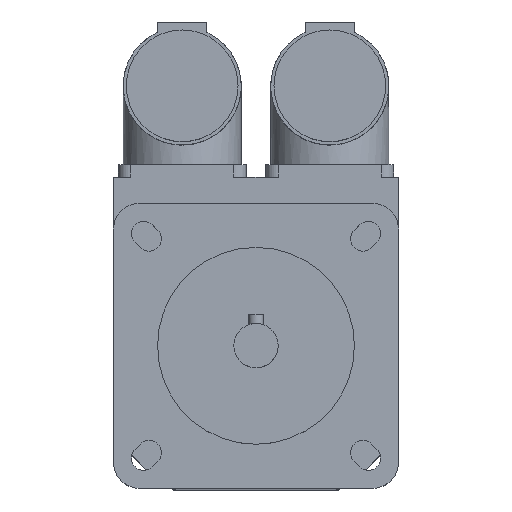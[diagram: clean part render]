
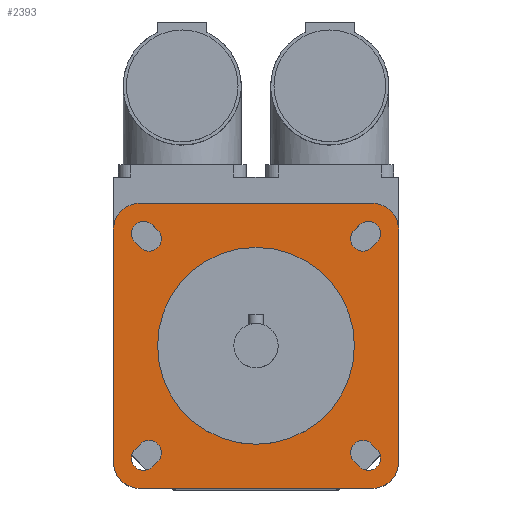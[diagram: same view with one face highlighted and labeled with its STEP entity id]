
A CAD part, top view. The second image highlights one B-rep face of the part: STEP entity #2393.
In plain terms, the highlighted planar face has unit normal (0, 0, 1).
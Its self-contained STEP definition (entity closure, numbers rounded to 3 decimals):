
#32=FACE_BOUND('',#432,.T.);
#33=FACE_BOUND('',#433,.T.);
#34=FACE_BOUND('',#434,.T.);
#35=FACE_BOUND('',#435,.T.);
#36=FACE_BOUND('',#436,.T.);
#51=CIRCLE('',#2486,20.);
#88=CIRCLE('',#2550,2.5);
#92=CIRCLE('',#2557,2.5);
#93=CIRCLE('',#2560,2.5);
#94=CIRCLE('',#2563,2.5);
#104=CIRCLE('',#2578,2.5);
#105=CIRCLE('',#2581,2.5);
#106=CIRCLE('',#2584,2.5);
#107=CIRCLE('',#2587,2.5);
#108=CIRCLE('',#2589,5.5);
#109=CIRCLE('',#2591,5.5);
#110=CIRCLE('',#2593,5.5);
#111=CIRCLE('',#2595,5.5);
#290=FACE_OUTER_BOUND('',#431,.T.);
#431=EDGE_LOOP('',(#1839,#1840,#1841,#1842,#1843,#1844,#1845,#1846));
#432=EDGE_LOOP('',(#1847));
#433=EDGE_LOOP('',(#1848,#1849,#1850,#1851));
#434=EDGE_LOOP('',(#1852,#1853,#1854,#1855));
#435=EDGE_LOOP('',(#1856,#1857,#1858,#1859));
#436=EDGE_LOOP('',(#1860,#1861,#1862,#1863));
#578=LINE('',#3719,#799);
#586=LINE('',#3743,#807);
#590=LINE('',#3753,#811);
#594=LINE('',#3763,#815);
#610=LINE('',#3814,#831);
#612=LINE('',#3820,#833);
#614=LINE('',#3826,#835);
#616=LINE('',#3832,#837);
#625=LINE('',#3860,#846);
#626=LINE('',#3861,#847);
#627=LINE('',#3862,#848);
#628=LINE('',#3863,#849);
#799=VECTOR('',#2944,1.5);
#807=VECTOR('',#2966,1.5);
#811=VECTOR('',#2976,1.5);
#815=VECTOR('',#2986,1.5);
#831=VECTOR('',#3032,1.5);
#833=VECTOR('',#3040,1.5);
#835=VECTOR('',#3048,1.5);
#837=VECTOR('',#3056,1.5);
#846=VECTOR('',#3087,47.);
#847=VECTOR('',#3088,47.);
#848=VECTOR('',#3089,47.);
#849=VECTOR('',#3090,47.);
#974=VERTEX_POINT('',#3540);
#1039=VERTEX_POINT('',#3716);
#1040=VERTEX_POINT('',#3718);
#1041=VERTEX_POINT('',#3722);
#1048=VERTEX_POINT('',#3740);
#1049=VERTEX_POINT('',#3742);
#1050=VERTEX_POINT('',#3746);
#1051=VERTEX_POINT('',#3750);
#1052=VERTEX_POINT('',#3752);
#1053=VERTEX_POINT('',#3756);
#1054=VERTEX_POINT('',#3760);
#1055=VERTEX_POINT('',#3762);
#1056=VERTEX_POINT('',#3766);
#1075=VERTEX_POINT('',#3812);
#1076=VERTEX_POINT('',#3818);
#1077=VERTEX_POINT('',#3824);
#1078=VERTEX_POINT('',#3830);
#1079=VERTEX_POINT('',#3836);
#1080=VERTEX_POINT('',#3838);
#1081=VERTEX_POINT('',#3842);
#1082=VERTEX_POINT('',#3844);
#1083=VERTEX_POINT('',#3848);
#1084=VERTEX_POINT('',#3850);
#1085=VERTEX_POINT('',#3854);
#1086=VERTEX_POINT('',#3856);
#1215=EDGE_CURVE('',#974,#974,#51,.T.);
#1301=EDGE_CURVE('',#1040,#1039,#578,.T.);
#1304=EDGE_CURVE('',#1039,#1041,#88,.T.);
#1313=EDGE_CURVE('',#1049,#1048,#586,.T.);
#1316=EDGE_CURVE('',#1048,#1050,#92,.T.);
#1318=EDGE_CURVE('',#1052,#1051,#590,.T.);
#1321=EDGE_CURVE('',#1051,#1053,#93,.T.);
#1323=EDGE_CURVE('',#1055,#1054,#594,.T.);
#1326=EDGE_CURVE('',#1054,#1056,#94,.T.);
#1349=EDGE_CURVE('',#1053,#1075,#610,.T.);
#1350=EDGE_CURVE('',#1075,#1052,#104,.T.);
#1352=EDGE_CURVE('',#1050,#1076,#612,.T.);
#1353=EDGE_CURVE('',#1076,#1049,#105,.T.);
#1355=EDGE_CURVE('',#1056,#1077,#614,.T.);
#1356=EDGE_CURVE('',#1077,#1055,#106,.T.);
#1358=EDGE_CURVE('',#1041,#1078,#616,.T.);
#1359=EDGE_CURVE('',#1078,#1040,#107,.T.);
#1361=EDGE_CURVE('',#1080,#1079,#108,.T.);
#1364=EDGE_CURVE('',#1082,#1081,#109,.T.);
#1367=EDGE_CURVE('',#1084,#1083,#110,.T.);
#1370=EDGE_CURVE('',#1086,#1085,#111,.T.);
#1372=EDGE_CURVE('',#1079,#1086,#625,.T.);
#1373=EDGE_CURVE('',#1085,#1084,#626,.T.);
#1374=EDGE_CURVE('',#1083,#1082,#627,.T.);
#1375=EDGE_CURVE('',#1081,#1080,#628,.T.);
#1839=ORIENTED_EDGE('',*,*,#1372,.T.);
#1840=ORIENTED_EDGE('',*,*,#1370,.T.);
#1841=ORIENTED_EDGE('',*,*,#1373,.T.);
#1842=ORIENTED_EDGE('',*,*,#1367,.T.);
#1843=ORIENTED_EDGE('',*,*,#1374,.T.);
#1844=ORIENTED_EDGE('',*,*,#1364,.T.);
#1845=ORIENTED_EDGE('',*,*,#1375,.T.);
#1846=ORIENTED_EDGE('',*,*,#1361,.T.);
#1847=ORIENTED_EDGE('',*,*,#1215,.T.);
#1848=ORIENTED_EDGE('',*,*,#1349,.T.);
#1849=ORIENTED_EDGE('',*,*,#1350,.T.);
#1850=ORIENTED_EDGE('',*,*,#1318,.T.);
#1851=ORIENTED_EDGE('',*,*,#1321,.T.);
#1852=ORIENTED_EDGE('',*,*,#1352,.T.);
#1853=ORIENTED_EDGE('',*,*,#1353,.T.);
#1854=ORIENTED_EDGE('',*,*,#1313,.T.);
#1855=ORIENTED_EDGE('',*,*,#1316,.T.);
#1856=ORIENTED_EDGE('',*,*,#1355,.T.);
#1857=ORIENTED_EDGE('',*,*,#1356,.T.);
#1858=ORIENTED_EDGE('',*,*,#1323,.T.);
#1859=ORIENTED_EDGE('',*,*,#1326,.T.);
#1860=ORIENTED_EDGE('',*,*,#1358,.T.);
#1861=ORIENTED_EDGE('',*,*,#1359,.T.);
#1862=ORIENTED_EDGE('',*,*,#1301,.T.);
#1863=ORIENTED_EDGE('',*,*,#1304,.T.);
#2297=PLANE('',#2596);
#2393=ADVANCED_FACE('',(#290,#32,#33,#34,#35,#36),#2297,.T.);
#2486=AXIS2_PLACEMENT_3D('',#3541,#2769,#2770);
#2550=AXIS2_PLACEMENT_3D('',#3724,#2949,#2950);
#2557=AXIS2_PLACEMENT_3D('',#3748,#2971,#2972);
#2560=AXIS2_PLACEMENT_3D('',#3758,#2981,#2982);
#2563=AXIS2_PLACEMENT_3D('',#3768,#2991,#2992);
#2578=AXIS2_PLACEMENT_3D('',#3816,#3035,#3036);
#2581=AXIS2_PLACEMENT_3D('',#3822,#3043,#3044);
#2584=AXIS2_PLACEMENT_3D('',#3828,#3051,#3052);
#2587=AXIS2_PLACEMENT_3D('',#3834,#3059,#3060);
#2589=AXIS2_PLACEMENT_3D('',#3839,#3064,#3065);
#2591=AXIS2_PLACEMENT_3D('',#3845,#3070,#3071);
#2593=AXIS2_PLACEMENT_3D('',#3851,#3076,#3077);
#2595=AXIS2_PLACEMENT_3D('',#3857,#3082,#3083);
#2596=AXIS2_PLACEMENT_3D('',#3859,#3085,#3086);
#2769=DIRECTION('center_axis',(0.,0.,-1.));
#2770=DIRECTION('ref_axis',(-1.,0.,0.));
#2944=DIRECTION('',(-0.707,-0.707,0.));
#2949=DIRECTION('center_axis',(0.,0.,-1.));
#2950=DIRECTION('ref_axis',(0.707,-0.707,0.));
#2966=DIRECTION('',(-0.707,0.707,0.));
#2971=DIRECTION('center_axis',(0.,0.,-1.));
#2972=DIRECTION('ref_axis',(-0.707,-0.707,0.));
#2976=DIRECTION('',(-0.707,-0.707,0.));
#2981=DIRECTION('center_axis',(0.,0.,-1.));
#2982=DIRECTION('ref_axis',(0.707,-0.707,0.));
#2986=DIRECTION('',(-0.707,0.707,0.));
#2991=DIRECTION('center_axis',(0.,0.,-1.));
#2992=DIRECTION('ref_axis',(-0.707,-0.707,0.));
#3032=DIRECTION('',(0.707,0.707,0.));
#3035=DIRECTION('center_axis',(0.,0.,-1.));
#3036=DIRECTION('ref_axis',(-0.707,0.707,0.));
#3040=DIRECTION('',(0.707,-0.707,0.));
#3043=DIRECTION('center_axis',(0.,0.,-1.));
#3044=DIRECTION('ref_axis',(0.707,0.707,0.));
#3048=DIRECTION('',(0.707,-0.707,0.));
#3051=DIRECTION('center_axis',(0.,0.,-1.));
#3052=DIRECTION('ref_axis',(0.707,0.707,0.));
#3056=DIRECTION('',(0.707,0.707,0.));
#3059=DIRECTION('center_axis',(0.,0.,-1.));
#3060=DIRECTION('ref_axis',(-0.707,0.707,0.));
#3064=DIRECTION('center_axis',(0.,0.,1.));
#3065=DIRECTION('ref_axis',(1.,0.,0.));
#3070=DIRECTION('center_axis',(0.,0.,1.));
#3071=DIRECTION('ref_axis',(0.,-1.,0.));
#3076=DIRECTION('center_axis',(0.,0.,1.));
#3077=DIRECTION('ref_axis',(-1.,0.,0.));
#3082=DIRECTION('center_axis',(0.,0.,1.));
#3083=DIRECTION('ref_axis',(0.,1.,0.));
#3085=DIRECTION('center_axis',(0.,0.,1.));
#3086=DIRECTION('ref_axis',(1.,0.,0.));
#3087=DIRECTION('',(-1.,0.,0.));
#3088=DIRECTION('',(0.,-1.,0.));
#3089=DIRECTION('',(1.,0.,0.));
#3090=DIRECTION('',(0.,1.,0.));
#3540=CARTESIAN_POINT('',(20.,0.,134.5));
#3541=CARTESIAN_POINT('Origin',(0.,0.,134.5));
#3716=CARTESIAN_POINT('',(-21.036,-24.572,134.5));
#3718=CARTESIAN_POINT('',(-19.976,-23.511,134.5));
#3719=CARTESIAN_POINT('',(-9.634,-13.17,134.5));
#3722=CARTESIAN_POINT('',(-24.572,-21.036,134.5));
#3724=CARTESIAN_POINT('Origin',(-22.804,-22.804,134.5));
#3740=CARTESIAN_POINT('',(-24.572,21.036,134.5));
#3742=CARTESIAN_POINT('',(-23.511,19.976,134.5));
#3743=CARTESIAN_POINT('',(-13.17,9.634,134.5));
#3746=CARTESIAN_POINT('',(-21.036,24.572,134.5));
#3748=CARTESIAN_POINT('Origin',(-22.804,22.804,134.5));
#3750=CARTESIAN_POINT('',(23.511,19.976,134.5));
#3752=CARTESIAN_POINT('',(24.572,21.036,134.5));
#3753=CARTESIAN_POINT('',(12.64,9.104,134.5));
#3756=CARTESIAN_POINT('',(19.976,23.511,134.5));
#3758=CARTESIAN_POINT('Origin',(21.744,21.744,134.5));
#3760=CARTESIAN_POINT('',(19.976,-23.511,134.5));
#3762=CARTESIAN_POINT('',(21.036,-24.572,134.5));
#3763=CARTESIAN_POINT('',(9.104,-12.64,134.5));
#3766=CARTESIAN_POINT('',(23.511,-19.976,134.5));
#3768=CARTESIAN_POINT('Origin',(21.744,-21.744,134.5));
#3812=CARTESIAN_POINT('',(21.036,24.572,134.5));
#3814=CARTESIAN_POINT('',(9.634,13.17,134.5));
#3816=CARTESIAN_POINT('Origin',(22.804,22.804,134.5));
#3818=CARTESIAN_POINT('',(-19.976,23.511,134.5));
#3820=CARTESIAN_POINT('',(-9.104,12.64,134.5));
#3822=CARTESIAN_POINT('Origin',(-21.744,21.744,134.5));
#3824=CARTESIAN_POINT('',(24.572,-21.036,134.5));
#3826=CARTESIAN_POINT('',(13.17,-9.634,134.5));
#3828=CARTESIAN_POINT('Origin',(22.804,-22.804,134.5));
#3830=CARTESIAN_POINT('',(-23.511,-19.976,134.5));
#3832=CARTESIAN_POINT('',(-12.64,-9.104,134.5));
#3834=CARTESIAN_POINT('Origin',(-21.744,-21.744,134.5));
#3836=CARTESIAN_POINT('',(23.5,29.,134.5));
#3838=CARTESIAN_POINT('',(29.,23.5,134.5));
#3839=CARTESIAN_POINT('Origin',(23.5,23.5,134.5));
#3842=CARTESIAN_POINT('',(29.,-23.5,134.5));
#3844=CARTESIAN_POINT('',(23.5,-29.,134.5));
#3845=CARTESIAN_POINT('Origin',(23.5,-23.5,134.5));
#3848=CARTESIAN_POINT('',(-23.5,-29.,134.5));
#3850=CARTESIAN_POINT('',(-29.,-23.5,134.5));
#3851=CARTESIAN_POINT('Origin',(-23.5,-23.5,134.5));
#3854=CARTESIAN_POINT('',(-29.,23.5,134.5));
#3856=CARTESIAN_POINT('',(-23.5,29.,134.5));
#3857=CARTESIAN_POINT('Origin',(-23.5,23.5,134.5));
#3859=CARTESIAN_POINT('Origin',(0.,0.,
134.5));
#3860=CARTESIAN_POINT('',(23.5,29.,134.5));
#3861=CARTESIAN_POINT('',(-29.,23.5,134.5));
#3862=CARTESIAN_POINT('',(-23.5,-29.,134.5));
#3863=CARTESIAN_POINT('',(29.,-23.5,134.5));
